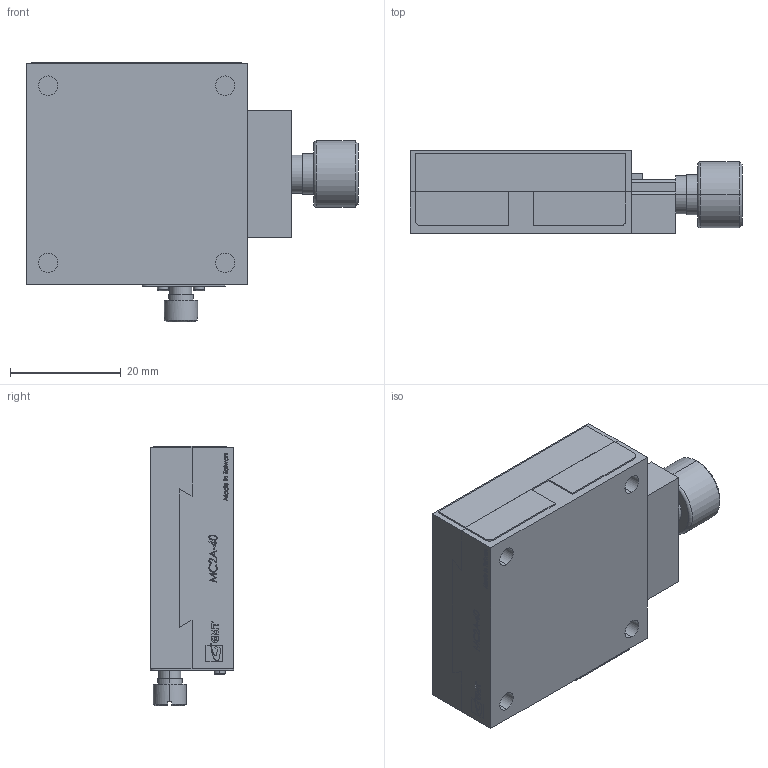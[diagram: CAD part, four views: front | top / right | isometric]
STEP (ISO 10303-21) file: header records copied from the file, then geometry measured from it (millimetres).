
FILE_DESCRIPTION (( 'STEP AP203' ), '1' );
FILE_NAME ('MC2A-40.STEP', '2008-07-19T06:53:11', ( 'user' ), ( '' ), 'SwSTEP 2.0', 'SolidWorks 2007', '' );
FILE_SCHEMA (( 'CONFIG_CONTROL_DESIGN' ));
Length unit declared in the file: millimetre
Products named in the file (1): MC2A-40
Bounding box: 60 x 15 x 46.95 mm (x, y, z)
Volume: 25971.8 mm3; surface area: 13656.8 mm2
Topology: 14 solids, 14 shells, 600 faces, 1558 edges, 1026 vertices
Faces by surface type: plane 358, cylinder 130, bspline 86, cone 20, torus 6
Entity records: 23207 total; most frequent: CARTESIAN_POINT 8815, ORIENTED_EDGE 3092, DIRECTION 2666, EDGE_CURVE 1546, VECTOR 1048, LINE 1048, VERTEX_POINT 1026, AXIS2_PLACEMENT_3D 809
